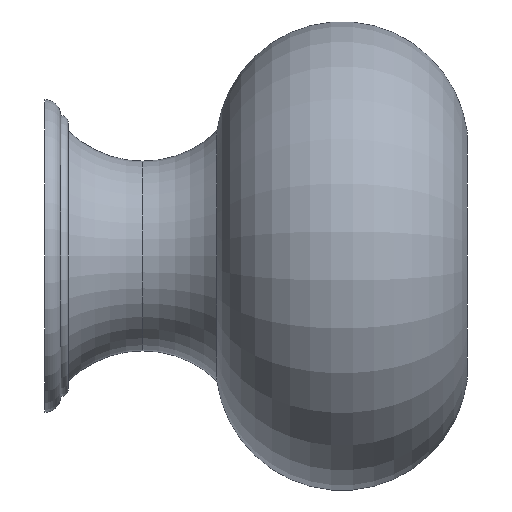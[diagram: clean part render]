
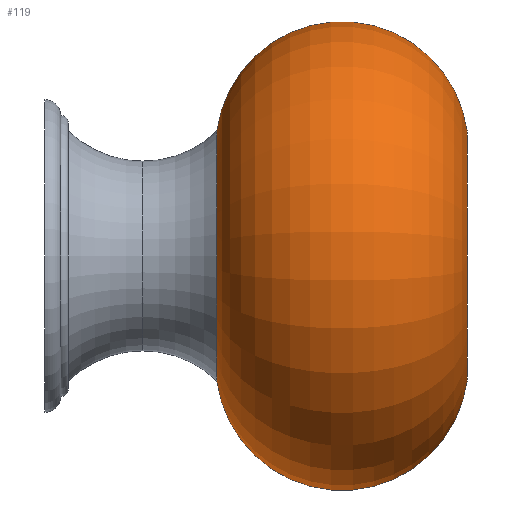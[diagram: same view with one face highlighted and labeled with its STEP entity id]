
A CAD part, left-side view. The second image highlights one B-rep face of the part: STEP entity #119.
In plain terms, the highlighted toroidal (fillet/blend) face has major radius 6.929 mm and minor radius 8.071 mm.
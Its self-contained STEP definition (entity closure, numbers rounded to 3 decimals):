
#101 = EDGE_CURVE( '', #129, #167, #249, .T. );
#119 = ADVANCED_FACE( '', ( #267 ), #268, .T. );
#129 = VERTEX_POINT( '', #279 );
#167 = VERTEX_POINT( '', #326 );
#171 = VERTEX_POINT( '', #330 );
#173 = VERTEX_POINT( '', #332 );
#175 = EDGE_CURVE( '', #167, #173, #334, .T. );
#191 = EDGE_CURVE( '', #171, #173, #353, .T. );
#193 = EDGE_CURVE( '', #171, #129, #355, .T. );
#249 = CIRCLE( '', #407, 8. );
#267 = FACE_OUTER_BOUND( '', #431, .T. );
#268 = TOROIDAL_SURFACE( '', #432, 6.929, 8.071 );
#279 = CARTESIAN_POINT( '', ( 0., -11., 8. ) );
#326 = CARTESIAN_POINT( '', ( 0., -11., -8. ) );
#330 = CARTESIAN_POINT( '', ( 0., -27., 8. ) );
#332 = CARTESIAN_POINT( '', ( 0., -27., -8. ) );
#334 = CIRCLE( '', #505, 8.071 );
#353 = CIRCLE( '', #530, 8. );
#355 = CIRCLE( '', #533, 8.071 );
#407 = AXIS2_PLACEMENT_3D( '', #593, #594, #595 );
#431 = EDGE_LOOP( '', ( #615, #616, #617, #618 ) );
#432 = AXIS2_PLACEMENT_3D( '', #619, #620, #621 );
#505 = AXIS2_PLACEMENT_3D( '', #700, #701, #702 );
#530 = AXIS2_PLACEMENT_3D( '', #737, #738, #739 );
#533 = AXIS2_PLACEMENT_3D( '', #740, #741, #742 );
#593 = CARTESIAN_POINT( '', ( 0., -11., 0. ) );
#594 = DIRECTION( '', ( 0., -1., 0. ) );
#595 = DIRECTION( '', ( 0., 0., 1. ) );
#615 = ORIENTED_EDGE( '', *, *, #175, .T. );
#616 = ORIENTED_EDGE( '', *, *, #191, .F. );
#617 = ORIENTED_EDGE( '', *, *, #193, .T. );
#618 = ORIENTED_EDGE( '', *, *, #101, .T. );
#619 = CARTESIAN_POINT( '', ( 0., -19., 0. ) );
#620 = DIRECTION( '', ( 0., -1., 0. ) );
#621 = DIRECTION( '', ( 0., 0., -1. ) );
#700 = CARTESIAN_POINT( '', ( 0., -19., -6.929 ) );
#701 = DIRECTION( '', ( -1., 0., 0. ) );
#702 = DIRECTION( '', ( 0., 0., -1. ) );
#737 = CARTESIAN_POINT( '', ( 0., -27., 0. ) );
#738 = DIRECTION( '', ( 0., -1., 0. ) );
#739 = DIRECTION( '', ( 0., 0., 1. ) );
#740 = CARTESIAN_POINT( '', ( 0., -19., 6.929 ) );
#741 = DIRECTION( '', ( -1., 0., 0. ) );
#742 = DIRECTION( '', ( 0., 0., 1. ) );
